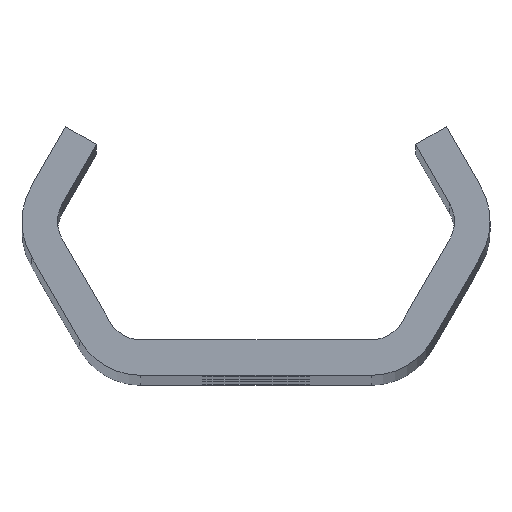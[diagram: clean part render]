
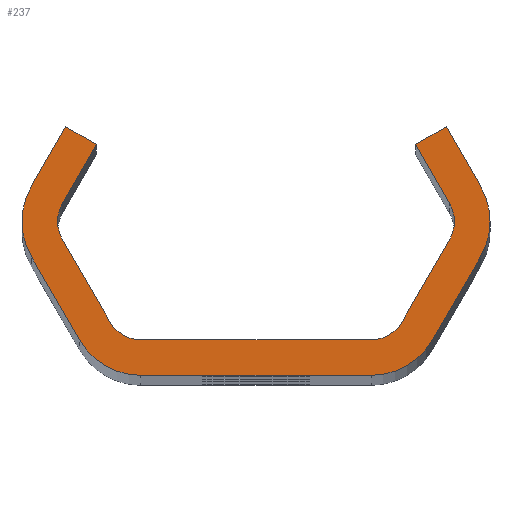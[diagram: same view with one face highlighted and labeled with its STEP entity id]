
A CAD part, top view. The second image highlights one B-rep face of the part: STEP entity #237.
In plain terms, the highlighted planar face has unit normal (0, 0, 1).
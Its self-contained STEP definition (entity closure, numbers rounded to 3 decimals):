
#237=ADVANCED_FACE('NONE',(#613),#614,.F.);
#613=FACE_OUTER_BOUND('',#1799,.T.);
#614=PLANE('',#1800);
#1799=EDGE_LOOP('',(#3577,#3578,#3579,#3580,#3581,#3582,#3583,#3584,#3585,#3586,#3587,#3588,#3589,#3590,#3591,#3592,#3593,#3594,#3595,#3596,#3597,#3598,#3599,#3600));
#1800=AXIS2_PLACEMENT_3D('',#3601,#3602,#3603);
#3577=ORIENTED_EDGE('',*,*,#4805,.T.);
#3578=ORIENTED_EDGE('',*,*,#4822,.T.);
#3579=ORIENTED_EDGE('',*,*,#4679,.T.);
#3580=ORIENTED_EDGE('',*,*,#4807,.T.);
#3581=ORIENTED_EDGE('',*,*,#4823,.T.);
#3582=ORIENTED_EDGE('',*,*,#4811,.T.);
#3583=ORIENTED_EDGE('',*,*,#4824,.T.);
#3584=ORIENTED_EDGE('',*,*,#4686,.T.);
#3585=ORIENTED_EDGE('',*,*,#4825,.T.);
#3586=ORIENTED_EDGE('',*,*,#4602,.T.);
#3587=ORIENTED_EDGE('',*,*,#4689,.T.);
#3588=ORIENTED_EDGE('',*,*,#4695,.T.);
#3589=ORIENTED_EDGE('',*,*,#4698,.T.);
#3590=ORIENTED_EDGE('',*,*,#4676,.T.);
#3591=ORIENTED_EDGE('',*,*,#4826,.T.);
#3592=ORIENTED_EDGE('',*,*,#4700,.T.);
#3593=ORIENTED_EDGE('',*,*,#4827,.T.);
#3594=ORIENTED_EDGE('',*,*,#4707,.T.);
#3595=ORIENTED_EDGE('',*,*,#4828,.T.);
#3596=ORIENTED_EDGE('',*,*,#4792,.T.);
#3597=ORIENTED_EDGE('',*,*,#4829,.T.);
#3598=ORIENTED_EDGE('',*,*,#4597,.T.);
#3599=ORIENTED_EDGE('',*,*,#4795,.T.);
#3600=ORIENTED_EDGE('',*,*,#4801,.T.);
#3601=CARTESIAN_POINT('',(0.0,0.0,480.0));
#3602=DIRECTION('',(0.0,0.0,-1.0));
#3603=DIRECTION('',(0.0,-1.0,0.0));
#4597=EDGE_CURVE('NONE',#5144,#5148,#5150,.T.);
#4602=EDGE_CURVE('NONE',#5153,#5157,#5159,.T.);
#4676=EDGE_CURVE('NONE',#5292,#5290,#5293,.T.);
#4679=EDGE_CURVE('NONE',#5296,#5297,#5298,.T.);
#4686=EDGE_CURVE('NONE',#5310,#5308,#5311,.T.);
#4689=EDGE_CURVE('NONE',#5157,#5314,#5315,.T.);
#4695=EDGE_CURVE('NONE',#5314,#5322,#5324,.T.);
#4698=EDGE_CURVE('NONE',#5322,#5292,#5327,.T.);
#4700=EDGE_CURVE('NONE',#5329,#5330,#5331,.T.);
#4707=EDGE_CURVE('NONE',#5343,#5341,#5344,.T.);
#4792=EDGE_CURVE('NONE',#5502,#5500,#5503,.T.);
#4795=EDGE_CURVE('NONE',#5148,#5506,#5507,.T.);
#4801=EDGE_CURVE('NONE',#5506,#5514,#5516,.T.);
#4805=EDGE_CURVE('NONE',#5514,#5520,#5522,.T.);
#4807=EDGE_CURVE('NONE',#5297,#5524,#5525,.T.);
#4811=EDGE_CURVE('NONE',#5530,#5531,#5532,.T.);
#4822=EDGE_CURVE('NONE',#5520,#5296,#5545,.T.);
#4823=EDGE_CURVE('NONE',#5524,#5530,#5546,.T.);
#4824=EDGE_CURVE('NONE',#5531,#5310,#5547,.T.);
#4825=EDGE_CURVE('NONE',#5308,#5153,#5548,.T.);
#4826=EDGE_CURVE('NONE',#5290,#5329,#5549,.T.);
#4827=EDGE_CURVE('NONE',#5330,#5343,#5550,.T.);
#4828=EDGE_CURVE('NONE',#5341,#5502,#5551,.T.);
#4829=EDGE_CURVE('NONE',#5500,#5144,#5552,.T.);
#5144=VERTEX_POINT('',#5957);
#5148=VERTEX_POINT('NONE',#5962);
#5150=CIRCLE('',#5965,3.0);
#5153=VERTEX_POINT('',#5968);
#5157=VERTEX_POINT('NONE',#5973);
#5159=CIRCLE('',#5976,6.0);
#5290=VERTEX_POINT('NONE',#6819);
#5292=VERTEX_POINT('NONE',#6822);
#5293=CIRCLE('',#6823,3.0);
#5296=VERTEX_POINT('NONE',#6827);
#5297=VERTEX_POINT('NONE',#6828);
#5298=CIRCLE('',#6829,6.0);
#5308=VERTEX_POINT('NONE',#6842);
#5310=VERTEX_POINT('NONE',#6845);
#5311=LINE('',#6846,#6847);
#5314=VERTEX_POINT('NONE',#6851);
#5315=LINE('',#6852,#6853);
#5322=VERTEX_POINT('NONE',#6863);
#5324=LINE('',#6866,#6867);
#5327=LINE('',#6871,#6872);
#5329=VERTEX_POINT('NONE',#6874);
#5330=VERTEX_POINT('NONE',#6875);
#5331=LINE('',#6876,#6877);
#5341=VERTEX_POINT('NONE',#6891);
#5343=VERTEX_POINT('NONE',#6894);
#5344=LINE('',#6895,#6896);
#5500=VERTEX_POINT('NONE',#7454);
#5502=VERTEX_POINT('NONE',#7457);
#5503=LINE('',#7458,#7459);
#5506=VERTEX_POINT('NONE',#7463);
#5507=LINE('',#7464,#7465);
#5514=VERTEX_POINT('NONE',#7475);
#5516=LINE('',#7478,#7479);
#5520=VERTEX_POINT('NONE',#7484);
#5522=LINE('',#7487,#7488);
#5524=VERTEX_POINT('NONE',#7490);
#5525=LINE('',#7491,#7492);
#5530=VERTEX_POINT('NONE',#7499);
#5531=VERTEX_POINT('NONE',#7500);
#5532=LINE('',#7501,#7502);
#5545=CIRCLE('',#7518,6.0);
#5546=CIRCLE('',#7519,6.0);
#5547=CIRCLE('',#7520,6.0);
#5548=CIRCLE('',#7521,6.0);
#5549=CIRCLE('',#7522,3.0);
#5550=CIRCLE('',#7523,3.0);
#5551=CIRCLE('',#7524,3.0);
#5552=CIRCLE('',#7525,3.0);
#5957=CARTESIAN_POINT('',(-16.764,0.,480.0));
#5962=CARTESIAN_POINT('',(-16.362,1.5,480.0));
#5965=AXIS2_PLACEMENT_3D('',#8833,#8834,#8835);
#5968=CARTESIAN_POINT('',(19.764,0.,480.0));
#5973=CARTESIAN_POINT('',(18.96,3.,480.0));
#5976=AXIS2_PLACEMENT_3D('',#8841,#8842,#8843);
#6819=CARTESIAN_POINT('',(16.764,0.,480.0));
#6822=CARTESIAN_POINT('',(16.362,1.5,480.0));
#6823=AXIS2_PLACEMENT_3D('',#8912,#8913,#8914);
#6827=CARTESIAN_POINT('',(-19.764,0.,480.0));
#6828=CARTESIAN_POINT('',(-18.96,-3.,480.0));
#6829=AXIS2_PLACEMENT_3D('',#8916,#8917,#8918);
#6842=CARTESIAN_POINT('',(18.96,-3.,480.0));
#6845=CARTESIAN_POINT('',(14.919,-10.,480.0));
#6846=CARTESIAN_POINT('',(20.692,0.,480.0));
#6847=VECTOR('',#8926,1000.0);
#6851=CARTESIAN_POINT('',(16.074,8.,480.0));
#6852=CARTESIAN_POINT('',(16.074,8.,480.0));
#6853=VECTOR('',#8928,1000.0);
#6863=CARTESIAN_POINT('',(13.475,6.5,480.0));
#6866=CARTESIAN_POINT('',(13.475,6.5,480.0));
#6867=VECTOR('',#8933,1000.0);
#6871=CARTESIAN_POINT('',(17.228,0.,480.0));
#6872=VECTOR('',#8935,1000.0);
#6874=CARTESIAN_POINT('',(16.362,-1.5,480.0));
#6875=CARTESIAN_POINT('',(12.321,-8.5,480.0));
#6876=CARTESIAN_POINT('',(11.455,-10.0,480.0));
#6877=VECTOR('',#8936,1000.0);
#6891=CARTESIAN_POINT('',(-9.723,-10.0,480.0));
#6894=CARTESIAN_POINT('',(9.723,-10.0,480.0));
#6895=CARTESIAN_POINT('',(-11.455,-10.0,480.0));
#6896=VECTOR('',#8942,1000.0);
#7454=CARTESIAN_POINT('',(-16.362,-1.5,480.0));
#7457=CARTESIAN_POINT('',(-12.321,-8.5,480.0));
#7458=CARTESIAN_POINT('',(-17.228,0.,480.0));
#7459=VECTOR('',#9030,1000.0);
#7463=CARTESIAN_POINT('',(-13.475,6.5,480.0));
#7464=CARTESIAN_POINT('',(-13.475,6.5,480.0));
#7465=VECTOR('',#9032,1000.0);
#7475=CARTESIAN_POINT('',(-16.074,8.,480.0));
#7478=CARTESIAN_POINT('',(-13.475,6.5,480.0));
#7479=VECTOR('',#9037,1000.0);
#7484=CARTESIAN_POINT('',(-18.96,3.,480.0));
#7487=CARTESIAN_POINT('',(-16.074,8.,480.0));
#7488=VECTOR('',#9040,1000.0);
#7490=CARTESIAN_POINT('',(-14.919,-10.,480.0));
#7491=CARTESIAN_POINT('',(-20.692,0.,480.0));
#7492=VECTOR('',#9041,1000.0);
#7499=CARTESIAN_POINT('',(-9.723,-13.0,480.0));
#7500=CARTESIAN_POINT('',(9.723,-13.0,480.0));
#7501=CARTESIAN_POINT('',(-13.187,-13.0,480.0));
#7502=VECTOR('',#9044,1000.0);
#7518=AXIS2_PLACEMENT_3D('',#9066,#9067,#9068);
#7519=AXIS2_PLACEMENT_3D('',#9069,#9070,#9071);
#7520=AXIS2_PLACEMENT_3D('',#9072,#9073,#9074);
#7521=AXIS2_PLACEMENT_3D('',#9075,#9076,#9077);
#7522=AXIS2_PLACEMENT_3D('',#9078,#9079,#9080);
#7523=AXIS2_PLACEMENT_3D('',#9081,#9082,#9083);
#7524=AXIS2_PLACEMENT_3D('',#9084,#9085,#9086);
#7525=AXIS2_PLACEMENT_3D('',#9087,#9088,#9089);
#8833=CARTESIAN_POINT('',(-13.764,0.,480.0));
#8834=DIRECTION('',(0.0,0.0,-1.0));
#8835=DIRECTION('',(-1.0,0.0,0.0));
#8841=CARTESIAN_POINT('',(13.764,0.,480.0));
#8842=DIRECTION('',(0.0,0.0,1.0));
#8843=DIRECTION('',(-1.0,0.0,0.0));
#8912=CARTESIAN_POINT('',(13.764,0.,480.0));
#8913=DIRECTION('',(0.0,0.0,-1.0));
#8914=DIRECTION('',(-1.0,0.0,0.0));
#8916=CARTESIAN_POINT('',(-13.764,0.,480.0));
#8917=DIRECTION('',(0.0,0.0,1.0));
#8918=DIRECTION('',(-1.0,0.0,0.0));
#8926=DIRECTION('',(0.5,0.866,-0.0));
#8928=DIRECTION('',(-0.5,0.866,-0.0));
#8933=DIRECTION('',(-0.866,-0.5,-0.0));
#8935=DIRECTION('',(0.5,-0.866,-0.0));
#8936=DIRECTION('',(-0.5,-0.866,-0.0));
#8942=DIRECTION('',(-1.0,0.,-0.0));
#9030=DIRECTION('',(-0.5,0.866,-0.0));
#9032=DIRECTION('',(0.5,0.866,-0.0));
#9037=DIRECTION('',(-0.866,0.5,0.0));
#9040=DIRECTION('',(-0.5,-0.866,0.0));
#9041=DIRECTION('',(0.5,-0.866,0.0));
#9044=DIRECTION('',(1.0,0.0,0.0));
#9066=CARTESIAN_POINT('',(-13.764,0.,480.0));
#9067=DIRECTION('',(0.0,0.0,1.0));
#9068=DIRECTION('',(-1.0,0.0,0.0));
#9069=CARTESIAN_POINT('',(-9.723,-7.0,480.0));
#9070=DIRECTION('',(0.0,0.0,1.0));
#9071=DIRECTION('',(-1.0,0.0,0.0));
#9072=CARTESIAN_POINT('',(9.723,-7.0,480.0));
#9073=DIRECTION('',(0.0,0.0,1.0));
#9074=DIRECTION('',(-1.0,0.,0.0));
#9075=CARTESIAN_POINT('',(13.764,0.,480.0));
#9076=DIRECTION('',(0.0,0.0,1.0));
#9077=DIRECTION('',(-1.0,0.0,0.0));
#9078=CARTESIAN_POINT('',(13.764,0.,480.0));
#9079=DIRECTION('',(0.0,0.0,-1.0));
#9080=DIRECTION('',(-1.0,0.0,0.0));
#9081=CARTESIAN_POINT('',(9.723,-7.0,480.0));
#9082=DIRECTION('',(0.0,0.0,-1.0));
#9083=DIRECTION('',(-1.0,0.0,0.0));
#9084=CARTESIAN_POINT('',(-9.723,-7.0,480.0));
#9085=DIRECTION('',(0.0,0.0,-1.0));
#9086=DIRECTION('',(-1.0,0.0,0.0));
#9087=CARTESIAN_POINT('',(-13.764,0.,480.0));
#9088=DIRECTION('',(0.0,0.0,-1.0));
#9089=DIRECTION('',(-1.0,0.0,0.0));
